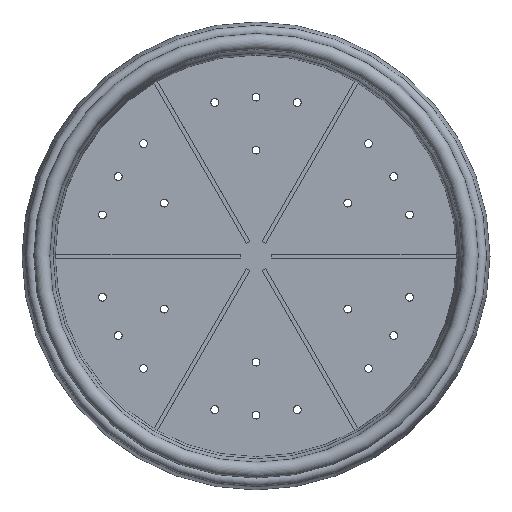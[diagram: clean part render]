
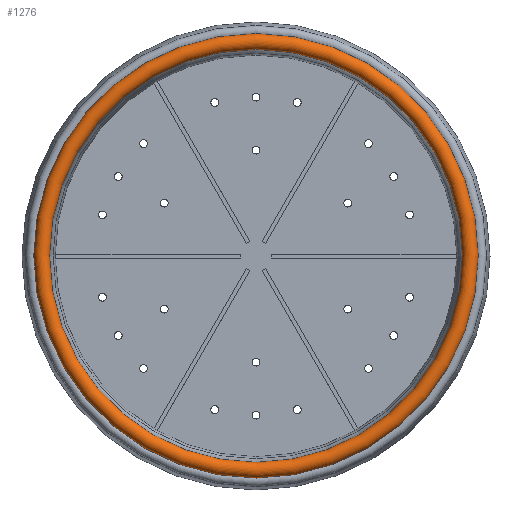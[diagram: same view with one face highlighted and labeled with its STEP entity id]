
A CAD part, top view. The second image highlights one B-rep face of the part: STEP entity #1276.
In plain terms, the highlighted toroidal (fillet/blend) face has major radius 136.5 mm and minor radius 5 mm.
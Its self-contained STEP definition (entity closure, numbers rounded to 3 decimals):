
#18=TOROIDAL_SURFACE('',#1441,136.5,5.);
#154=FACE_OUTER_BOUND('',#245,.T.);
#245=EDGE_LOOP('',(#1097,#1098,#1099,#1100));
#522=CIRCLE('',#1440,140.33);
#523=CIRCLE('',#1442,131.5);
#524=CIRCLE('',#1443,5.);
#643=VERTEX_POINT('',#2201);
#644=VERTEX_POINT('',#2205);
#810=EDGE_CURVE('',#643,#643,#522,.T.);
#812=EDGE_CURVE('',#644,#644,#523,.T.);
#813=EDGE_CURVE('',#644,#643,#524,.T.);
#1097=ORIENTED_EDGE('',*,*,#812,.F.);
#1098=ORIENTED_EDGE('',*,*,#813,.T.);
#1099=ORIENTED_EDGE('',*,*,#810,.T.);
#1100=ORIENTED_EDGE('',*,*,#813,.F.);
#1276=ADVANCED_FACE('',(#154),#18,.T.);
#1440=AXIS2_PLACEMENT_3D('',#2202,#1821,#1822);
#1441=AXIS2_PLACEMENT_3D('',#2204,#1824,#1825);
#1442=AXIS2_PLACEMENT_3D('',#2206,#1826,#1827);
#1443=AXIS2_PLACEMENT_3D('',#2207,#1828,#1829);
#1821=DIRECTION('center_axis',(0.,0.,1.));
#1822=DIRECTION('ref_axis',(1.,0.,0.));
#1824=DIRECTION('center_axis',(0.,0.,1.));
#1825=DIRECTION('ref_axis',(1.,0.,0.));
#1826=DIRECTION('center_axis',(0.,0.,1.));
#1827=DIRECTION('ref_axis',(1.,0.,0.));
#1828=DIRECTION('center_axis',(0.,-1.,0.));
#1829=DIRECTION('ref_axis',(-1.,0.,0.));
#2201=CARTESIAN_POINT('',(-140.33,0.,91.786));
#2202=CARTESIAN_POINT('Origin',(0.,0.,91.786));
#2204=CARTESIAN_POINT('Origin',(0.,0.,95.));
#2205=CARTESIAN_POINT('',(-131.5,0.,95.));
#2206=CARTESIAN_POINT('Origin',(0.,0.,95.));
#2207=CARTESIAN_POINT('Origin',(-136.5,0.,
95.));
